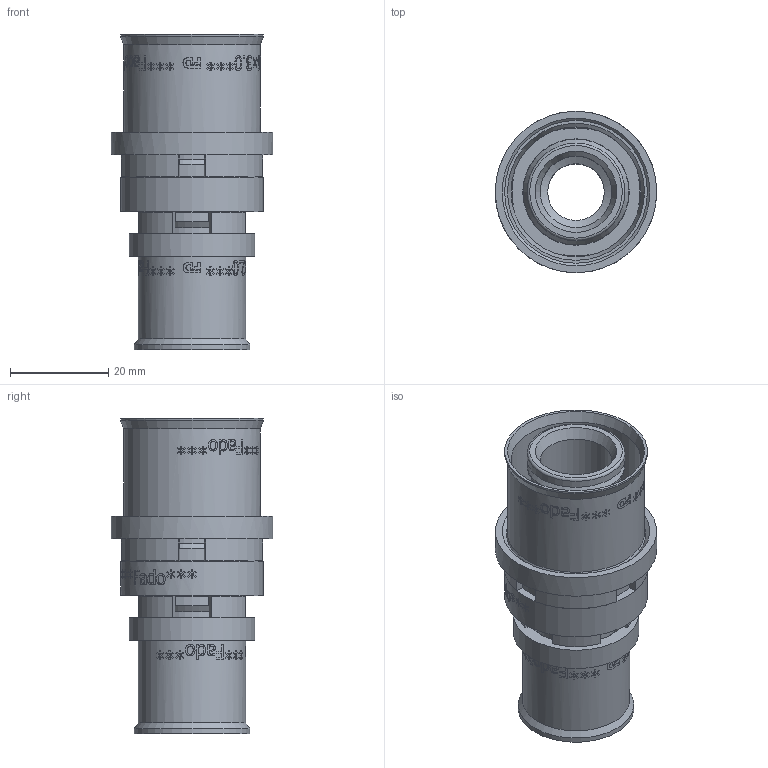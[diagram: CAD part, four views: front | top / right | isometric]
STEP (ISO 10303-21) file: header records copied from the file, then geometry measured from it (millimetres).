
FILE_DESCRIPTION(/* description */ (''),/* implementation_level */ '2;1');
FILE_NAME(/* name */ 'C:\Users\Doom\Desktop\Фадотех\Пресс\HDM05 26x20 Coupler 31.03.2020\HDM05 26x20 Coupler 31.03.2020.stp',/* time_stamp */ '2022-08-11T12:03:52+03:00',/* author */ ('Doom'),/* organization */ (''),/* preprocessor_version */ 'ST-DEVELOPER v18',/* originating_system */ 'Autodesk Inventor 2020',/* authorisation */ '');
FILE_SCHEMA (('AUTOMOTIVE_DESIGN { 1 0 10303 214 3 1 1 }'));
Products named in the file (6): HDM01 Coupler 31.03.2020; 16 Model 18.12.2019; 16 Model 18.12.2019_1; 16 Model 18.12.2019_2; 16 Model 18.12.2019_3; 16 Model 18.12.2019_4
Assembly tree (5 placements, depth 2):
  HDM01 Coupler 31.03.2020
    16 Model 18.12.2019
    16 Model 18.12.2019_1
    16 Model 18.12.2019_2
    16 Model 18.12.2019_3
    16 Model 18.12.2019_4
Bounding box: 32.8 x 32.8 x 64.08 mm (x, y, z)
Volume: 14328.3 mm3; surface area: 19861.5 mm2
Topology: 5 solids, 5 shells, 1271 faces, 3579 edges, 2414 vertices
Faces by surface type: bspline 815, plane 270, cylinder 147, cone 29, torus 10
Full cylindrical faces by diameter (mm): 11.5 x1, 13.5 x2, 14.3 x1, 14.5 x1, 15.8 x8, 16.4 x1, 16.6 x3, 17.5 x1, 17.6 x1, 17.8 x1, 19.8 x8, 20.4 x2, 20.8 x2, 21.5 x1, 21.6 x1, 21.8 x1, 22 x1, 23 x2, 23.5 x1, 25.5 x1, 26.4 x2, 27.8 x1, 28.3 x1, 29 x3, 29.2 x1, 32.8 x1
Entity records: 55631 total; most frequent: CARTESIAN_POINT 27414, ORIENTED_EDGE 7158, EDGE_CURVE 3579, DIRECTION 3479, VERTEX_POINT 2414, B_SPLINE_CURVE_WITH_KNOTS 1630, EDGE_LOOP 1393, LINE 1353
